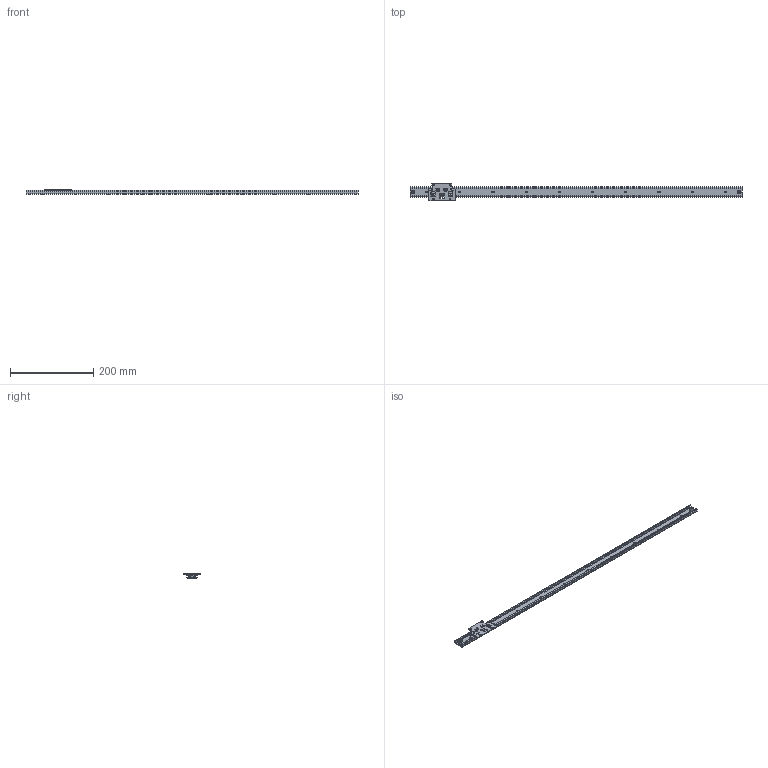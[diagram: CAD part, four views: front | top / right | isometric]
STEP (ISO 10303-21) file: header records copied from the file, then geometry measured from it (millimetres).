
FILE_DESCRIPTION((''),'1');
FILE_NAME('C:/Users/t-inoue/Desktop/25SW0800SS hp.stp','2016-07-29T02:41:20',(''),(''),'Spatial Interop R21 SP3','Kubotek KeyCreator 2011 V10.0.2 (22737)',' ');
FILE_SCHEMA(('automotive_design'));
Length unit declared in the file: millimetre
Products named in the file (446): Unnamed[1]
Bounding box: 800 x 42 x 12 mm (x, y, z)
Surface area: 74267.8 mm2 (no closed solid volume)
Topology: 0 solids, 446 shells, 446 faces, 1934 edges, 1777 vertices
Faces by surface type: plane 194, cylinder 138, cone 105, torus 8, sphere 1
Full cylindrical faces by diameter (mm): 1.6 x1, 3.2 x6, 3.3 x4, 3.5 x1, 4 x10, 5 x6, 5.5 x4, 5.6 x2, 7 x6, 8.2 x2
Entity records: 38402 total; most frequent: CARTESIAN_POINT 4656, DIRECTION 4385, PRESENTATION_STYLE_ASSIGNMENT 1784, COLOUR_RGB 1784, AXIS2_PLACEMENT_3D 1751, ORIENTED_EDGE 1750, EDGE_CURVE 1750, VERTEX_POINT 1750
